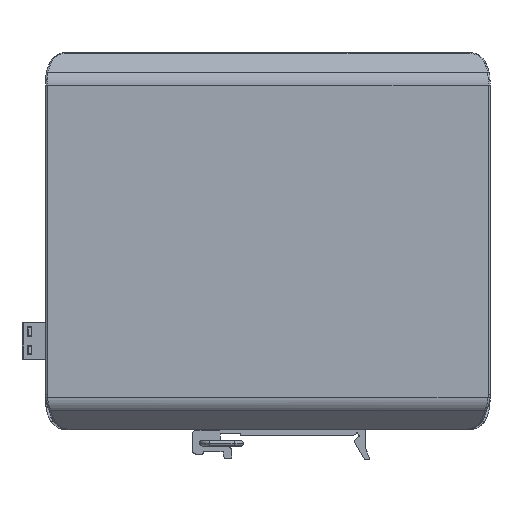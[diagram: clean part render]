
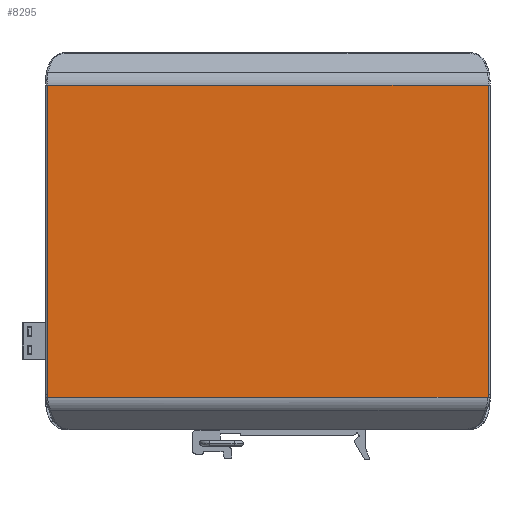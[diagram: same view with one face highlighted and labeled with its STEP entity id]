
A CAD part, front view. The second image highlights one B-rep face of the part: STEP entity #8295.
In plain terms, the highlighted planar face has unit normal (0, -1, 0) as drawn and (1, 0, 0) by its records, which use the part's own axes.
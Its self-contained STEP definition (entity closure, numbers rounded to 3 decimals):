
#5462=CARTESIAN_POINT('',(27.,60.124,31.07));
#5474=DIRECTION('',(0.,-1.,0.));
#5475=VECTOR('',#5474,119.149);
#5476=CARTESIAN_POINT('',(27.,60.124,31.07));
#5477=LINE('',#5476,#5475);
#5482=CARTESIAN_POINT('',(27.,-49.55,30.379));
#5483=DIRECTION('',(-1.,0.,0.));
#5484=DIRECTION('',(0.,-1.,0.));
#5485=AXIS2_PLACEMENT_3D('',#5482,#5483,#5484);
#5487=CARTESIAN_POINT('',(27.,50.65,30.372));
#5488=DIRECTION('',(-1.,0.,0.));
#5489=DIRECTION('',(0.,0.997,0.074));
#5490=AXIS2_PLACEMENT_3D('',#5487,#5488,#5489);
#5492=DIRECTION('',(0.,0.,-1.));
#5493=VECTOR('',#5492,83.649);
#5494=CARTESIAN_POINT('',(27.,-59.05,30.379));
#5495=LINE('',#5494,#5493);
#5515=DIRECTION('',(0.,1.,0.));
#5516=VECTOR('',#5515,119.2);
#5517=CARTESIAN_POINT('',(27.,-59.05,-53.27));
#5518=LINE('',#5517,#5516);
#5533=DIRECTION('',(0.,0.,1.));
#5534=VECTOR('',#5533,83.642);
#5535=CARTESIAN_POINT('',(27.,60.15,-53.27));
#5536=LINE('',#5535,#5534);
#7128=VERTEX_POINT('',#5462);
#7129=CARTESIAN_POINT('',(27.,-59.025,31.07));
#7130=VERTEX_POINT('',#7129);
#7132=CARTESIAN_POINT('',(27.,-59.05,30.379));
#7133=CARTESIAN_POINT('',(27.,-59.05,-53.27));
#7134=VERTEX_POINT('',#7132);
#7135=VERTEX_POINT('',#7133);
#7136=CARTESIAN_POINT('',(27.,60.15,30.372));
#7137=VERTEX_POINT('',#7136);
#7138=CARTESIAN_POINT('',(27.,60.15,-53.27));
#7139=VERTEX_POINT('',#7138);
#8277=CARTESIAN_POINT('',(27.,-172.5,31.07));
#8278=DIRECTION('',(1.,0.,0.));
#8279=DIRECTION('',(0.,0.,-1.));
#8280=AXIS2_PLACEMENT_3D('',#8277,#8278,#8279);
#8281=PLANE('',#8280);
#8283=ORIENTED_EDGE('',*,*,#8282,.F.);
#8285=ORIENTED_EDGE('',*,*,#8284,.T.);
#8286=ORIENTED_EDGE('',*,*,#8266,.F.);
#8288=ORIENTED_EDGE('',*,*,#8287,.T.);
#8290=ORIENTED_EDGE('',*,*,#8289,.F.);
#8292=ORIENTED_EDGE('',*,*,#8291,.F.);
#8293=EDGE_LOOP('',(#8283,#8285,#8286,#8288,#8290,#8292));
#8294=FACE_OUTER_BOUND('',#8293,.F.);
#5486=CIRCLE('',#5485,9.5);
#5491=CIRCLE('',#5490,9.5);
#8266=EDGE_CURVE('',#7128,#7130,#5477,.T.);
#8282=EDGE_CURVE('',#7134,#7135,#5495,.T.);
#8284=EDGE_CURVE('',#7134,#7130,#5486,.T.);
#8287=EDGE_CURVE('',#7128,#7137,#5491,.T.);
#8289=EDGE_CURVE('',#7139,#7137,#5536,.T.);
#8291=EDGE_CURVE('',#7135,#7139,#5518,.T.);
#8295=ADVANCED_FACE('',(#8294),#8281,.T.);
